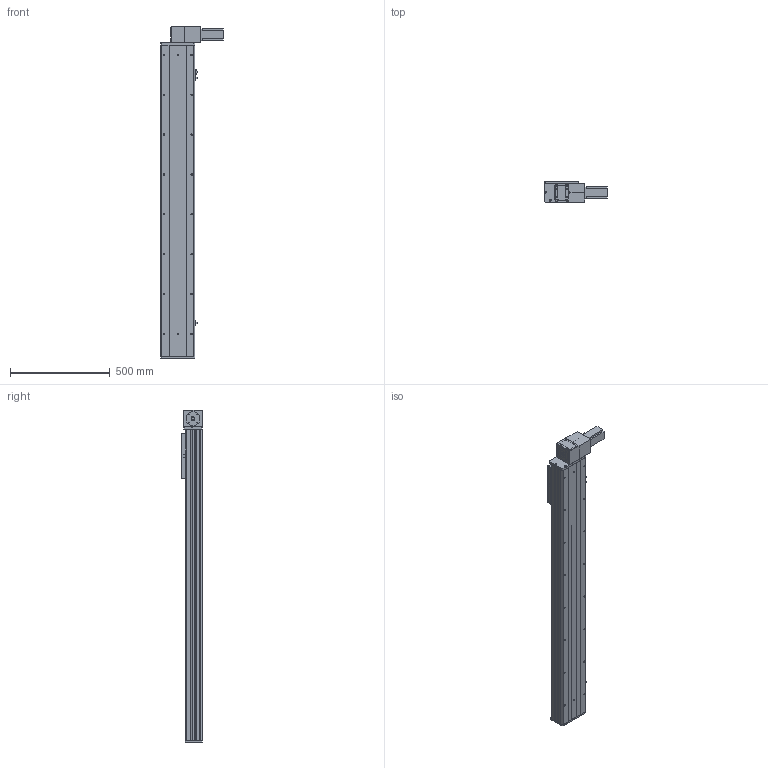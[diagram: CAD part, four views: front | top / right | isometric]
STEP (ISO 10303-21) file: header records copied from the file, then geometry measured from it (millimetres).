
FILE_DESCRIPTION (( 'STEP AP203' ), '1' );
FILE_NAME ('Y170CB-D105-S1250-BD-P400W.STEP', '2020-02-20T08:40:42', ( '微软用户' ), ( '微软中国' ), 'SwSTEP 2.0', 'SolidWorks 2017', '' );
FILE_SCHEMA (( 'CONFIG_CONTROL_DESIGN' ));
Length unit declared in the file: millimetre
Products named in the file (16): 70CB-詩湍--; Y100-135俋离換覜ん--; san松下电机400不带刹车----; Y170CB-陔俋离換覜結え---; 70CB-掛极-; Y1埴倛裔; --70CB --喘謫眊楊擘啣-; 70B喘謫眊----; 70CB-耜裔啣-; 0B薊粣ん眊-400W--; 70C--詩湍揤踡え-; Y170CB-D105-S1250-BD-P400W; 70CB--耜裔; 70C-雄赽釱-奻-; 0C--雄赽釱俋欶-170; B-源倛裔啣
Assembly tree (19 placements, depth 2):
  Y170CB-D105-S1250-BD-P400W
    B-源倛裔啣
    san松下电机400不带刹车----
    70CB-掛极-
    --70CB --喘謫眊楊擘啣-
    70CB-耜裔啣-  x2
    70C--詩湍揤踡え-  x2
    70CB--耜裔
    70C-雄赽釱-奻-
    0C--雄赽釱俋欶-170
    70CB-詩湍--
    Y100-135俋离換覜ん--  x3
    Y170CB-陔俋离換覜結え---
    Y1埴倛裔
    70B喘謫眊----
    0B薊粣ん眊-400W--
Bounding box: 313.5 x 107 x 1666 mm (x, y, z)
Volume: 7811545.6 mm3; surface area: 2674131.1 mm2
Topology: 19 solids, 19 shells, 928 faces, 2450 edges, 1624 vertices
Faces by surface type: cylinder 482, plane 422, cone 24
Entity records: 29011 total; most frequent: CARTESIAN_POINT 5386, DIRECTION 4719, ORIENTED_EDGE 4382, EDGE_CURVE 2191, AXIS2_PLACEMENT_3D 1741, VERTEX_POINT 1454, VECTOR 1237, LINE 1237
